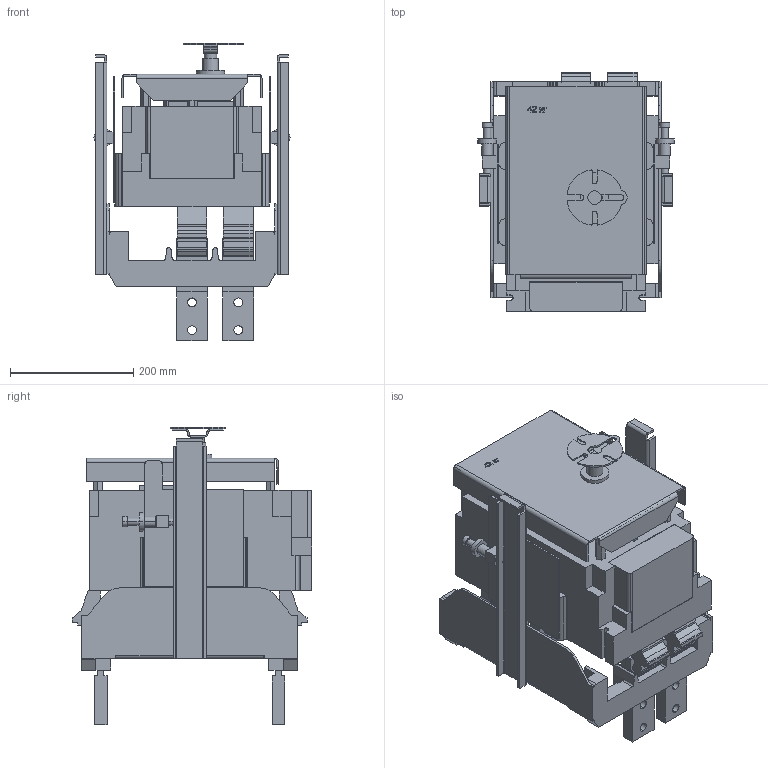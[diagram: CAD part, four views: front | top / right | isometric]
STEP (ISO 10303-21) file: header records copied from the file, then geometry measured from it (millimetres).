
FILE_DESCRIPTION (( 'STEP AP214' ), '1' );
FILE_NAME ('ÂÀ53(55)-41 ÂÈ ñ ðó÷íûì äèñòàíöèîííûì ïðèâîäîì DC.STEP', '2023-02-13T11:24:51', ( 'user' ), ( '' ), 'SwSTEP 2.0', 'SolidWorks 2018', '' );
FILE_SCHEMA (( 'AUTOMOTIVE_DESIGN' ));
Length unit declared in the file: millimetre
Products named in the file (1): ÂÀ53(55)-41 ÂÈ ñ ðó÷íûì äèñòàíöèîííûì ïðèâîäîì DC
Bounding box: 318 x 388.85 x 481.85 mm (x, y, z)
Volume: 16765216.1 mm3; surface area: 1328878.2 mm2
Topology: 1 solids, 1 shells, 758 faces, 2231 edges, 1488 vertices
Faces by surface type: plane 529, cylinder 218, cone 7, bspline 4
Entity records: 25564 total; most frequent: CARTESIAN_POINT 4853, ORIENTED_EDGE 4454, DIRECTION 4144, EDGE_CURVE 2227, VECTOR 1746, LINE 1746, VERTEX_POINT 1488, AXIS2_PLACEMENT_3D 1199
